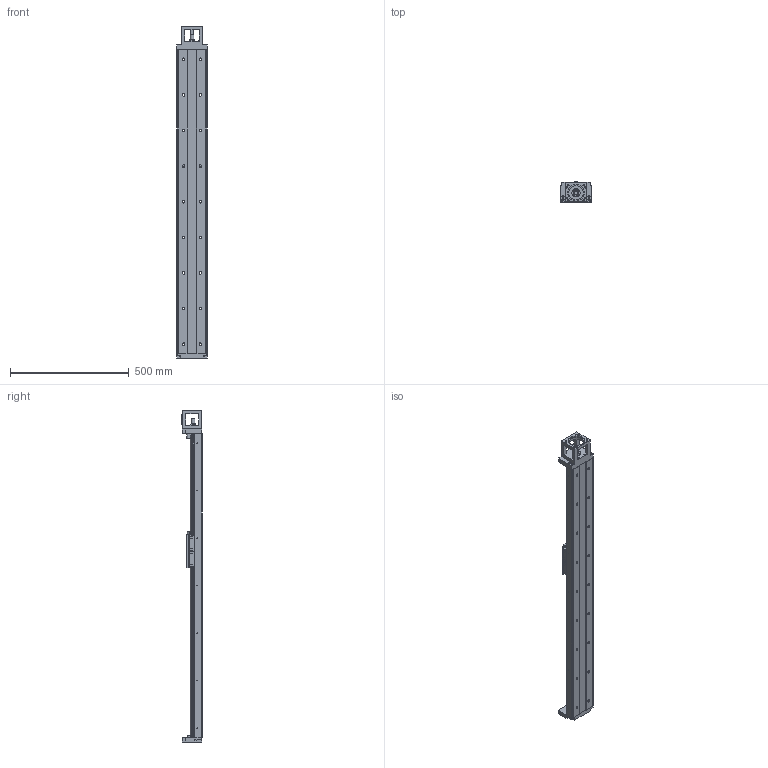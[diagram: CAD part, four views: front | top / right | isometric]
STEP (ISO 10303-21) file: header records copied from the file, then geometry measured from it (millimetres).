
FILE_DESCRIPTION(/* description */ (''),/* implementation_level */ '2;1');
FILE_NAME(/* name */ 'TKK130-1280A1F0.stp',/* time_stamp */ '2016-12-22T10:19:20+08:00',/* author */ (''),/* organization */ (''),/* preprocessor_version */ 'ST-DEVELOPER v15',/* originating_system */ 'SIEMENS PLM Software NX 8.5',/* authorisation */ '');
FILE_SCHEMA (('AUTOMOTIVE_DESIGN { 1 0 10303 214 3 1 1 1 }'));
Length unit declared in the file: millimetre
Products named in the file (3): 02; 01; TKK130-1280A1F0
Assembly tree (2 placements, depth 2):
  TKK130-1280A1F0
    01
    02
Bounding box: 130 x 85 x 1398 mm (x, y, z)
Volume: 5229505.3 mm3; surface area: 854693.7 mm2
Topology: 2 solids, 36 shells, 999 faces, 2664 edges, 1744 vertices
Faces by surface type: plane 554, cylinder 290, cone 115, extrusion 33, bspline 6, torus 1
Full cylindrical faces by diameter (mm): 2.1 x14, 2.5 x4, 3.3 x54, 4.5 x16, 5 x23, 6.6 x10, 6.8 x8, 7 x2, 8 x8, 8.5 x4, 9 x8, 11 x22, 12 x4, 15 x1, 16.3 x1, 17 x20, 25 x1, 35 x2, 40 x3, 60.03 x1, 70.03 x1
Entity records: 29827 total; most frequent: CARTESIAN_POINT 6543, DIRECTION 4492, ORIENTED_EDGE 4170, EDGE_CURVE 2085, AXIS2_PLACEMENT_3D 1607, VERTEX_POINT 1578, EDGE_LOOP 1423, VECTOR 1278
